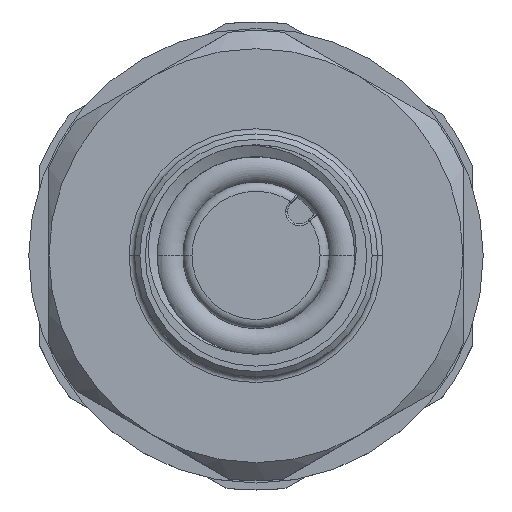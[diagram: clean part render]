
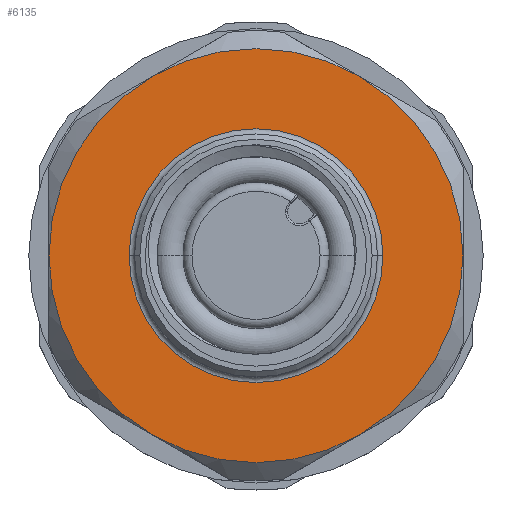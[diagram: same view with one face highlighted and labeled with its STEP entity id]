
A CAD part, top view. The second image highlights one B-rep face of the part: STEP entity #6135.
In plain terms, the highlighted planar face has unit normal (0, 0, 1).
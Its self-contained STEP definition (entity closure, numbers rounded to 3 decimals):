
#134 = AXIS2_PLACEMENT_3D ( 'NONE', #6804, #2550, #3235 ) ;
#198 = EDGE_CURVE ( 'NONE', #5323, #9367, #1845, .T. ) ;
#562 = ORIENTED_EDGE ( 'NONE', *, *, #8657, .T. ) ;
#602 = CARTESIAN_POINT ( 'NONE',  ( -11.5, 0., 3.95 ) ) ;
#697 = CARTESIAN_POINT ( 'NONE',  ( 0., 0., 3.95 ) ) ;
#723 = DIRECTION ( 'NONE',  ( 0., 0., 1. ) ) ;
#763 = DIRECTION ( 'NONE',  ( 0., 0., 1. ) ) ;
#1130 = DIRECTION ( 'NONE',  ( 1., 0., 0. ) ) ;
#1314 = EDGE_CURVE ( 'NONE', #6904, #2211, #5498, .T. ) ;
#1319 = PLANE ( 'NONE',  #9793 ) ;
#1845 = CIRCLE ( 'NONE', #4214, 7.05 ) ;
#1989 = ORIENTED_EDGE ( 'NONE', *, *, #3035, .T. ) ;
#2032 = CARTESIAN_POINT ( 'NONE',  ( 0., 0., 3.95 ) ) ;
#2108 = DIRECTION ( 'NONE',  ( 0., 0., -1. ) ) ;
#2211 = VERTEX_POINT ( 'NONE', #602 ) ;
#2520 = DIRECTION ( 'NONE',  ( 1., 0., 0. ) ) ;
#2550 = DIRECTION ( 'NONE',  ( 0., 0., 1. ) ) ;
#3035 = EDGE_CURVE ( 'NONE', #10936, #6657, #7354, .T. ) ;
#3171 = DIRECTION ( 'NONE',  ( 0., 0., 1. ) ) ;
#3235 = DIRECTION ( 'NONE',  ( 1., 0., 0. ) ) ;
#3327 = DIRECTION ( 'NONE',  ( 1., 0., 0. ) ) ;
#3377 = DIRECTION ( 'NONE',  ( 1., 0., 0. ) ) ;
#3472 = VERTEX_POINT ( 'NONE', #7669 ) ;
#3621 = CARTESIAN_POINT ( 'NONE',  ( 7.05, 0., 3.95 ) ) ;
#3630 = DIRECTION ( 'NONE',  ( 0., 0., 1. ) ) ;
#3673 = ORIENTED_EDGE ( 'NONE', *, *, #4225, .F. ) ;
#3705 = ORIENTED_EDGE ( 'NONE', *, *, #1314, .T. ) ;
#3868 = FACE_BOUND ( 'NONE', #10827, .T. ) ;
#3960 = CARTESIAN_POINT ( 'NONE',  ( -7.05, 0., 3.95 ) ) ;
#4214 = AXIS2_PLACEMENT_3D ( 'NONE', #2032, #8107, #9088 ) ;
#4225 = EDGE_CURVE ( 'NONE', #9367, #5323, #10107, .T. ) ;
#4275 = CARTESIAN_POINT ( 'NONE',  ( 0., 0., 3.95 ) ) ;
#4629 = AXIS2_PLACEMENT_3D ( 'NONE', #4275, #763, #7733 ) ;
#4754 = EDGE_CURVE ( 'NONE', #6657, #3472, #8669, .T. ) ;
#4800 = ORIENTED_EDGE ( 'NONE', *, *, #4754, .T. ) ;
#4833 = CARTESIAN_POINT ( 'NONE',  ( 0., 7.05, 3.95 ) ) ;
#5029 = DIRECTION ( 'NONE',  ( 0., 0., 1. ) ) ;
#5323 = VERTEX_POINT ( 'NONE', #3621 ) ;
#5373 = VERTEX_POINT ( 'NONE', #8966 ) ;
#5498 = CIRCLE ( 'NONE', #8078, 11.5 ) ;
#5693 = EDGE_CURVE ( 'NONE', #5373, #10936, #5738, .T. ) ;
#5738 = CIRCLE ( 'NONE', #4629, 11.5 ) ;
#5747 = DIRECTION ( 'NONE',  ( 1., 0., 0. ) ) ;
#5902 = CARTESIAN_POINT ( 'NONE',  ( 0., 0., 3.95 ) ) ;
#6059 = CARTESIAN_POINT ( 'NONE',  ( 0., 0., 3.95 ) ) ;
#6086 = AXIS2_PLACEMENT_3D ( 'NONE', #7742, #11234, #2520 ) ;
#6091 = CARTESIAN_POINT ( 'NONE',  ( -5.75, 9.959, 3.95 ) ) ;
#6135 = ADVANCED_FACE ( 'NONE', ( #3868, #10014 ), #1319, .F. ) ;
#6502 = EDGE_LOOP ( 'NONE', ( #4800, #9028, #3705, #562, #8304, #1989 ) ) ;
#6657 = VERTEX_POINT ( 'NONE', #9147 ) ;
#6804 = CARTESIAN_POINT ( 'NONE',  ( 0., 0., 3.95 ) ) ;
#6904 = VERTEX_POINT ( 'NONE', #6091 ) ;
#7080 = CARTESIAN_POINT ( 'NONE',  ( 0., 0., 3.95 ) ) ;
#7354 = CIRCLE ( 'NONE', #10665, 11.5 ) ;
#7490 = ORIENTED_EDGE ( 'NONE', *, *, #198, .F. ) ;
#7669 = CARTESIAN_POINT ( 'NONE',  ( 5.75, 9.959, 3.95 ) ) ;
#7733 = DIRECTION ( 'NONE',  ( 1., 0., 0. ) ) ;
#7742 = CARTESIAN_POINT ( 'NONE',  ( 0., 0., 3.95 ) ) ;
#7805 = CIRCLE ( 'NONE', #9278, 11.5 ) ;
#8078 = AXIS2_PLACEMENT_3D ( 'NONE', #697, #3171, #5747 ) ;
#8107 = DIRECTION ( 'NONE',  ( 0., 0., 1. ) ) ;
#8182 = DIRECTION ( 'NONE',  ( -1., 0., 0. ) ) ;
#8304 = ORIENTED_EDGE ( 'NONE', *, *, #5693, .T. ) ;
#8657 = EDGE_CURVE ( 'NONE', #2211, #5373, #8908, .T. ) ;
#8669 = CIRCLE ( 'NONE', #6086, 11.5 ) ;
#8908 = CIRCLE ( 'NONE', #134, 11.5 ) ;
#8966 = CARTESIAN_POINT ( 'NONE',  ( -5.75, -9.959, 3.95 ) ) ;
#9017 = AXIS2_PLACEMENT_3D ( 'NONE', #5902, #723, #3327 ) ;
#9028 = ORIENTED_EDGE ( 'NONE', *, *, #9133, .T. ) ;
#9088 = DIRECTION ( 'NONE',  ( 1., 0., 0. ) ) ;
#9133 = EDGE_CURVE ( 'NONE', #3472, #6904, #7805, .T. ) ;
#9147 = CARTESIAN_POINT ( 'NONE',  ( 11.5, 0., 3.95 ) ) ;
#9278 = AXIS2_PLACEMENT_3D ( 'NONE', #7080, #3630, #1130 ) ;
#9367 = VERTEX_POINT ( 'NONE', #3960 ) ;
#9671 = CARTESIAN_POINT ( 'NONE',  ( 5.75, -9.959, 3.95 ) ) ;
#9793 = AXIS2_PLACEMENT_3D ( 'NONE', #4833, #2108, #8182 ) ;
#10014 = FACE_OUTER_BOUND ( 'NONE', #6502, .T. ) ;
#10107 = CIRCLE ( 'NONE', #9017, 7.05 ) ;
#10665 = AXIS2_PLACEMENT_3D ( 'NONE', #6059, #5029, #3377 ) ;
#10827 = EDGE_LOOP ( 'NONE', ( #7490, #3673 ) ) ;
#10936 = VERTEX_POINT ( 'NONE', #9671 ) ;
#11234 = DIRECTION ( 'NONE',  ( 0., 0., 1. ) ) ;
